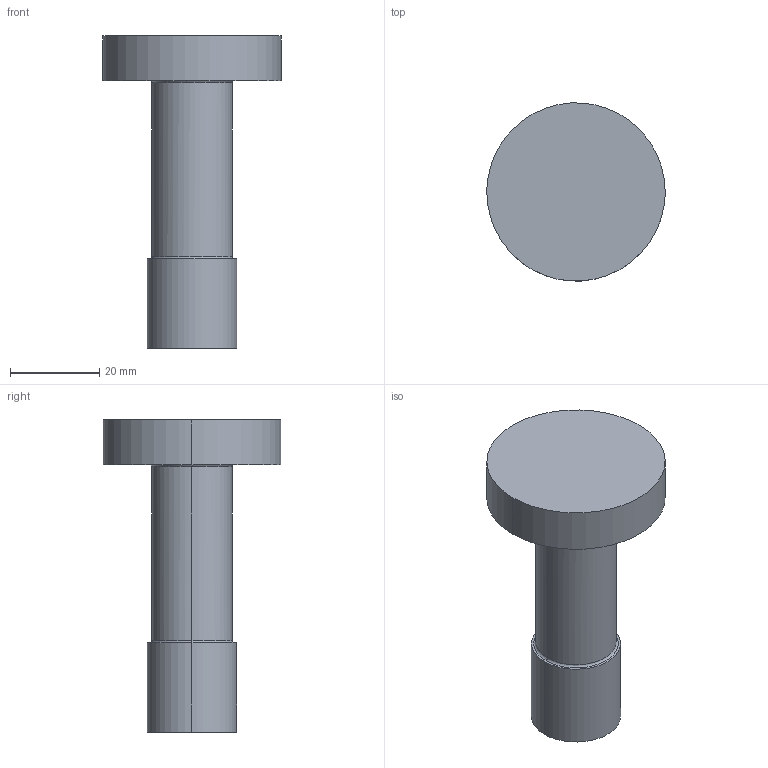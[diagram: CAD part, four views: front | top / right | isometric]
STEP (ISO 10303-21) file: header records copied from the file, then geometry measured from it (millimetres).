
FILE_DESCRIPTION(/* description */ (''),/* implementation_level */ '2;1');
FILE_NAME(/* name */ 'Bolt',/* time_stamp */ '2019-03-30T19:09:38-04:00',/* author */ (''),/* organization */ (''),/* preprocessor_version */ 'ST-DEVELOPER v15',/* originating_system */ '',/* authorisation */ '');
FILE_SCHEMA (('AUTOMOTIVE_DESIGN'));
Length unit declared in the file: millimetre
Products named in the file (1): Document
Bounding box: 40 x 39.92 x 70 mm (x, y, z)
Volume: 29093.2 mm3; surface area: 7390.1 mm2
Topology: 1 solids, 1 shells, 14 faces, 26 edges, 16 vertices
Faces by surface type: bspline 10, plane 4
Entity records: 857 total; most frequent: CARTESIAN_POINT 680, ORIENTED_EDGE 52, EDGE_CURVE 26, EDGE_LOOP 16, VERTEX_POINT 16, ADVANCED_FACE 14, FACE_OUTER_BOUND 14, DIRECTION 8
